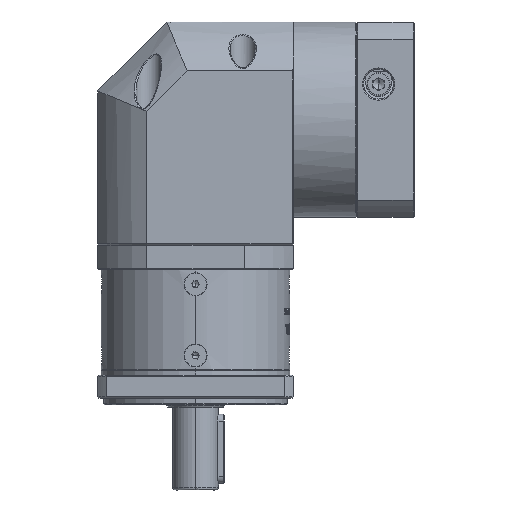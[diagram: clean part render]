
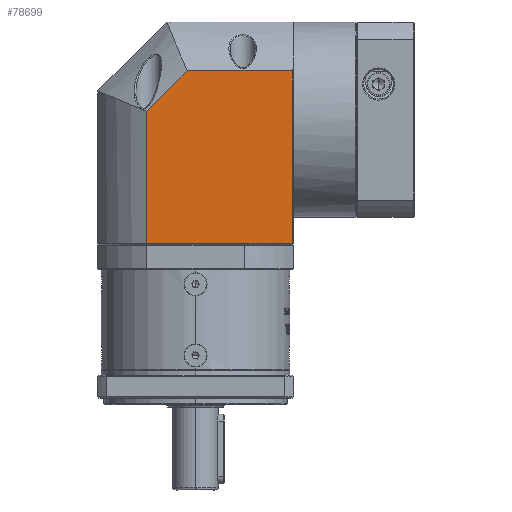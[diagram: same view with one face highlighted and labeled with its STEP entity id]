
A CAD part, front view. The second image highlights one B-rep face of the part: STEP entity #78699.
In plain terms, the highlighted planar face has unit normal (0, -1, 0).
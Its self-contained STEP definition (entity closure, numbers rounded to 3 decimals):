
#1492 = VECTOR ( 'NONE', #5930, 1000. ) ;
#5348 = ORIENTED_EDGE ( 'NONE', *, *, #137802, .F. ) ;
#5682 = VERTEX_POINT ( 'NONE', #176278 ) ;
#5930 = DIRECTION ( 'NONE',  ( 0.707, 0., 0.707 ) ) ;
#14612 = VERTEX_POINT ( 'NONE', #21178 ) ;
#15517 = DIRECTION ( 'NONE',  ( 1., 0., 0. ) ) ;
#16501 = VERTEX_POINT ( 'NONE', #115925 ) ;
#19132 = LINE ( 'NONE', #88620, #55579 ) ;
#19516 = LINE ( 'NONE', #140400, #124755 ) ;
#21178 = CARTESIAN_POINT ( 'NONE',  ( 6.578, 84.697, -75.623 ) ) ;
#30460 = CARTESIAN_POINT ( 'NONE',  ( 70.291, 84.697, -0.41 ) ) ;
#36982 = DIRECTION ( 'NONE',  ( 0., 0., 1. ) ) ;
#37406 = VECTOR ( 'NONE', #15517, 1000. ) ;
#43766 = DIRECTION ( 'NONE',  ( 0., 0., -1. ) ) ;
#55579 = VECTOR ( 'NONE', #89202, 1000. ) ;
#57489 = VERTEX_POINT ( 'NONE', #128540 ) ;
#69075 = PLANE ( 'NONE',  #70622 ) ;
#69693 = DIRECTION ( 'NONE',  ( 0., 1., 0. ) ) ;
#70622 = AXIS2_PLACEMENT_3D ( 'NONE', #151921, #69693, #165831 ) ;
#73002 = CARTESIAN_POINT ( 'NONE',  ( 6.578, 84.697, -17.94 ) ) ;
#78699 = ADVANCED_FACE ( 'NONE', ( #108614 ), #69075, .F. ) ;
#84520 = EDGE_LOOP ( 'NONE', ( #138979, #146864, #169388, #133083, #5348 ) ) ;
#88620 = CARTESIAN_POINT ( 'NONE',  ( 70.291, 84.697, -75.623 ) ) ;
#89202 = DIRECTION ( 'NONE',  ( 1., 0., 0. ) ) ;
#93155 = VECTOR ( 'NONE', #36982, 1000. ) ;
#98585 = VERTEX_POINT ( 'NONE', #73002 ) ;
#108614 = FACE_OUTER_BOUND ( 'NONE', #84520, .T. ) ;
#110284 = EDGE_CURVE ( 'NONE', #57489, #16501, #19516, .T. ) ;
#111071 = LINE ( 'NONE', #156601, #1492 ) ;
#115925 = CARTESIAN_POINT ( 'NONE',  ( 69.791, 84.697, -75.623 ) ) ;
#124755 = VECTOR ( 'NONE', #43766, 1000. ) ;
#128540 = CARTESIAN_POINT ( 'NONE',  ( 69.791, 84.697, -0.41 ) ) ;
#133083 = ORIENTED_EDGE ( 'NONE', *, *, #165479, .F. ) ;
#133097 = CARTESIAN_POINT ( 'NONE',  ( 6.578, 84.697, 20.877 ) ) ;
#137802 = EDGE_CURVE ( 'NONE', #14612, #98585, #142579, .T. ) ;
#138979 = ORIENTED_EDGE ( 'NONE', *, *, #159865, .T. ) ;
#140400 = CARTESIAN_POINT ( 'NONE',  ( 69.791, 84.697, 20.877 ) ) ;
#142579 = LINE ( 'NONE', #133097, #93155 ) ;
#142701 = LINE ( 'NONE', #30460, #37406 ) ;
#144416 = EDGE_CURVE ( 'NONE', #5682, #57489, #142701, .T. ) ;
#146864 = ORIENTED_EDGE ( 'NONE', *, *, #110284, .F. ) ;
#151921 = CARTESIAN_POINT ( 'NONE',  ( 70.291, 84.697, 20.877 ) ) ;
#156601 = CARTESIAN_POINT ( 'NONE',  ( 6.578, 84.697, -17.94 ) ) ;
#159865 = EDGE_CURVE ( 'NONE', #14612, #16501, #19132, .T. ) ;
#165479 = EDGE_CURVE ( 'NONE', #98585, #5682, #111071, .T. ) ;
#165831 = DIRECTION ( 'NONE',  ( -1., 0., 0. ) ) ;
#169388 = ORIENTED_EDGE ( 'NONE', *, *, #144416, .F. ) ;
#176278 = CARTESIAN_POINT ( 'NONE',  ( 24.108, 84.697, -0.41 ) ) ;
